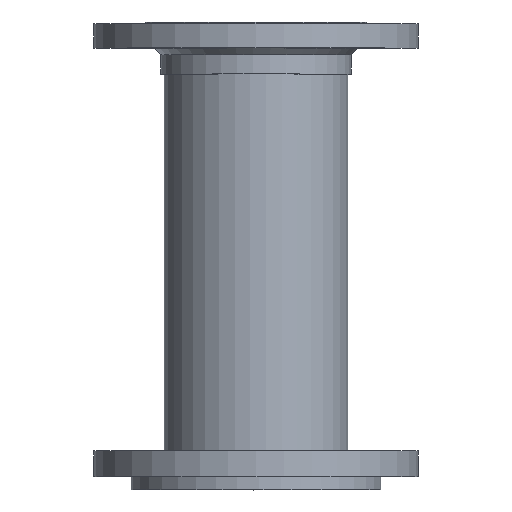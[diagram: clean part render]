
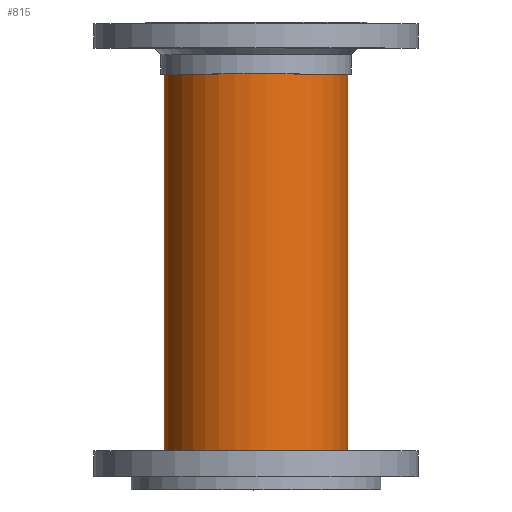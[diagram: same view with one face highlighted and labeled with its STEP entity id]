
A CAD part, top view. The second image highlights one B-rep face of the part: STEP entity #815.
In plain terms, the highlighted cylindrical face has radius 90.018 mm (diameter 180.035 mm), a full revolution.
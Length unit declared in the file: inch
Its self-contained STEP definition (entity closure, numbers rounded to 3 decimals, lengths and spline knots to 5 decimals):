
#31=FACE_BOUND('',#187,.T.);
#132=FACE_OUTER_BOUND('',#186,.T.);
#186=EDGE_LOOP('',(#571));
#187=EDGE_LOOP('',(#572));
#340=CIRCLE('',#873,3.544);
#341=CIRCLE('',#874,3.544);
#417=VERTEX_POINT('',#1268);
#418=VERTEX_POINT('',#1270);
#494=EDGE_CURVE('',#417,#417,#340,.T.);
#495=EDGE_CURVE('',#418,#418,#341,.T.);
#571=ORIENTED_EDGE('',*,*,#494,.F.);
#572=ORIENTED_EDGE('',*,*,#495,.F.);
#724=CYLINDRICAL_SURFACE('',#872,3.544);
#815=ADVANCED_FACE('',(#132,#31),#724,.T.);
#872=AXIS2_PLACEMENT_3D('',#1267,#1007,#1008);
#873=AXIS2_PLACEMENT_3D('',#1269,#1009,#1010);
#874=AXIS2_PLACEMENT_3D('',#1271,#1011,#1012);
#1007=DIRECTION('center_axis',(0.,-1.,0.));
#1008=DIRECTION('ref_axis',(0.285,0.,0.959));
#1009=DIRECTION('center_axis',(0.,-1.,0.));
#1010=DIRECTION('ref_axis',(0.285,0.,0.959));
#1011=DIRECTION('center_axis',(0.,1.,0.));
#1012=DIRECTION('ref_axis',(0.285,0.,0.959));
#1267=CARTESIAN_POINT('Origin',(0.,17.,0.));
#1268=CARTESIAN_POINT('',(-1.00843,0.5,-3.3975));
#1269=CARTESIAN_POINT('Origin',(0.,0.5,0.));
#1270=CARTESIAN_POINT('',(-1.00843,17.,-3.3975));
#1271=CARTESIAN_POINT('Origin',(0.,17.,0.));
